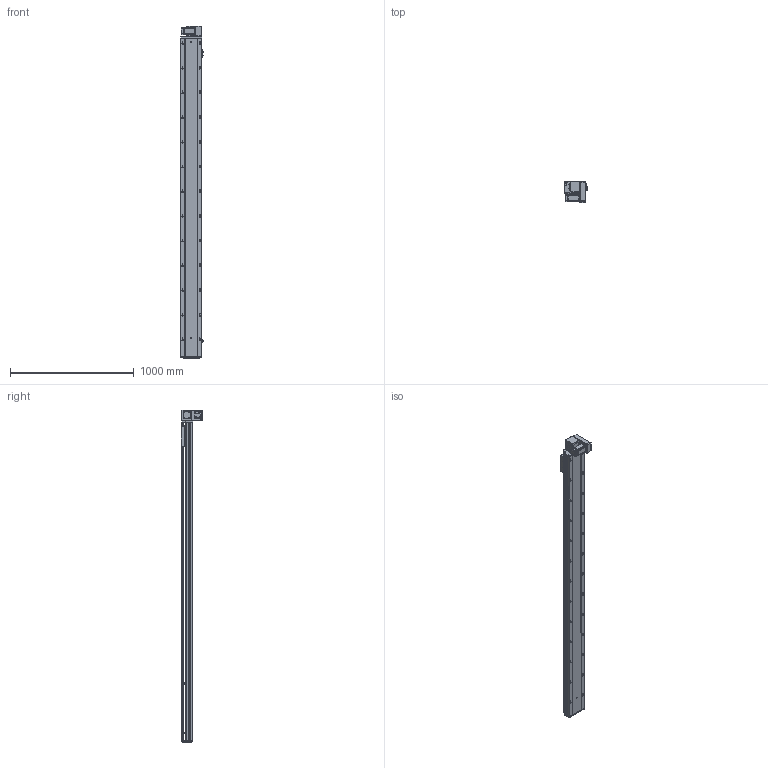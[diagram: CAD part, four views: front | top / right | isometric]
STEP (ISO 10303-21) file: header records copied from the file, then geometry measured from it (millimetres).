
FILE_DESCRIPTION (( 'STEP AP203' ), '1' );
FILE_NAME ('RY170-T-300-DR-P400W.SLDASM_2300.step', '2021-03-01T08:25:23', ( '盈信电脑' ), ( '东莞市道滘镇水果街19号' ), 'SwSTEP 2.0', 'SolidWorks 2012', '' );
FILE_SCHEMA (( 'CONFIG_CONTROL_DESIGN' ));
Length unit declared in the file: millimetre
Products named in the file (19): RY170-T-300-DR-P400W.SLDASM_2300; RY170-T-呴雄粣揤踡啣; 15; RY170-T肮祭謫裔啣; RY170-T蹟翐M4; 滅袉蝶18-10; RY170-T肮祭湍揤踡輸2; RY120-T主同步轮轴承压盖; RY170-T肮祭湍揤踡輸1; RY170翋肮祭謫釱; RY170肮祭謫ヶ裔啣; RY170肮祭謫萇儂欶; RY170同步轮电机安装板(400W); 覜茼ん672; RY170綴裔啣; RY170外置感应片(200共用）; RY170肮祭湍臏賑輸; RY170-T-300肮祭謫倰第裔啣-DR_2300; RY170-T-300肮祭謫倰第菁釱-DR_2300
Assembly tree (23 placements, depth 2):
  RY170-T-300-DR-P400W.SLDASM_2300
    RY170-T-300肮祭謫倰第菁釱-DR_2300
    RY170肮祭湍臏賑輸
    RY170-T-300肮祭謫倰第裔啣-DR_2300
    RY170綴裔啣
    覜茼ん672  x3
    RY170外置感应片(200共用）
    RY170肮祭謫ヶ裔啣
    RY170翋肮祭謫釱
    RY170同步轮电机安装板(400W)
    RY170肮祭謫萇儂欶
    RY170-T肮祭湍揤踡輸1  x2
    RY170-T肮祭湍揤踡輸2  x2
    RY120-T主同步轮轴承压盖
    RY170-T肮祭謫裔啣
    RY170-T蹟翐M4
    滅袉蝶18-10  x2
    RY170-T-呴雄粣揤踡啣
    15
Bounding box: 183.7 x 178 x 2688 mm (x, y, z)
Volume: 12337980.5 mm3; surface area: 4263425.5 mm2
Topology: 23 solids, 23 shells, 3090 faces, 8686 edges, 5529 vertices
Faces by surface type: cylinder 1460, plane 1276, cone 324, bspline 30
Entity records: 94685 total; most frequent: CARTESIAN_POINT 22145, ORIENTED_EDGE 14904, DIRECTION 14488, EDGE_CURVE 7452, AXIS2_PLACEMENT_3D 5162, VERTEX_POINT 4885, VECTOR 4164, LINE 4164
